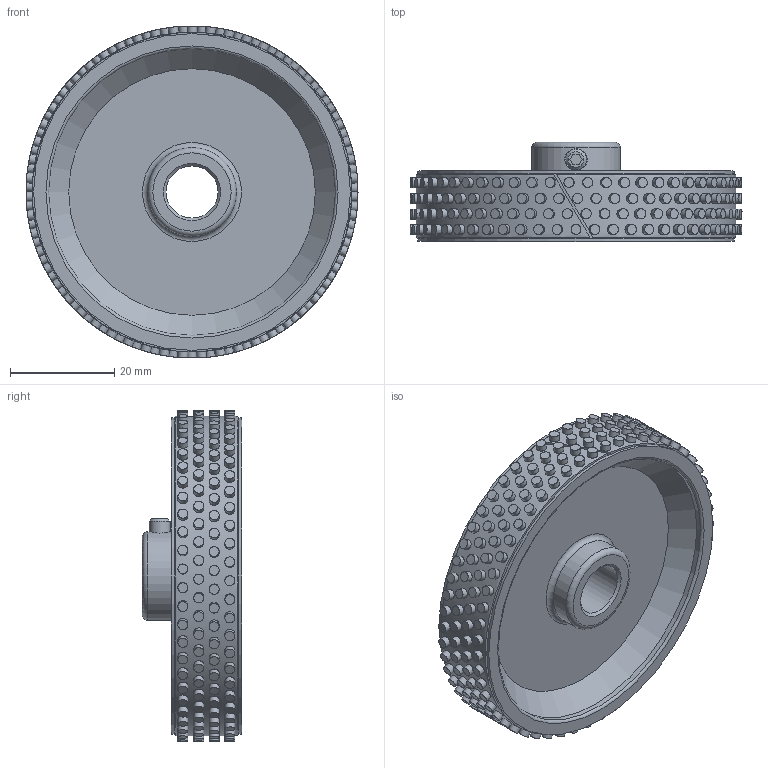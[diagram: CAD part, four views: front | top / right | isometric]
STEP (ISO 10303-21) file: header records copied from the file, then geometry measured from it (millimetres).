
FILE_DESCRIPTION( ( 'Unknown' ), '1' );
FILE_NAME( '//emea.baumernet.org/de01apps/Konstr_Zchng/3D_Zeichnung/Produkte/Messrad/Messräder_09156/Step-Marketing/MR261.10A.stp', 'Unknown', ( 'Unknown' ), ( 'Unknown' ), 'PSStep 19.0.9', 'Unknown', ' ' );
FILE_SCHEMA( ( 'AUTOMOTIVE_DESIGN { 1 0 10303 214 1 1 1 1 }' ) );
Length unit declared in the file: millimetre
Products named in the file (4): Assem1; Gewindestift M4x6 DIN 913; 05510261R; 14700024_Rund
Assembly tree (3 placements, depth 2):
  Assem1
    Gewindestift M4x6 DIN 913
    05510261R
    14700024_Rund
Bounding box: 63.66 x 19 x 63.66 mm (x, y, z)
Volume: 19641.3 mm3; surface area: 17224.4 mm2
Topology: 3 solids, 3 shells, 486 faces, 752 edges, 499 vertices
Faces by surface type: cylinder 452, plane 21, cone 6, torus 6, bspline 1
Full cylindrical faces by diameter (mm): 1.9 x220, 3.242 x1, 4 x1, 10 x1, 17 x2, 55 x2, 59.76 x1, 60.75 x2
Entity records: 22371 total; most frequent: CARTESIAN_POINT 15280, DIRECTION 1076, ORIENTED_EDGE 1006, EDGE_LOOP 960, FACE_OUTER_BOUND 723, AXIS2_PLACEMENT_3D 527, EDGE_CURVE 503, VERTEX_POINT 493
